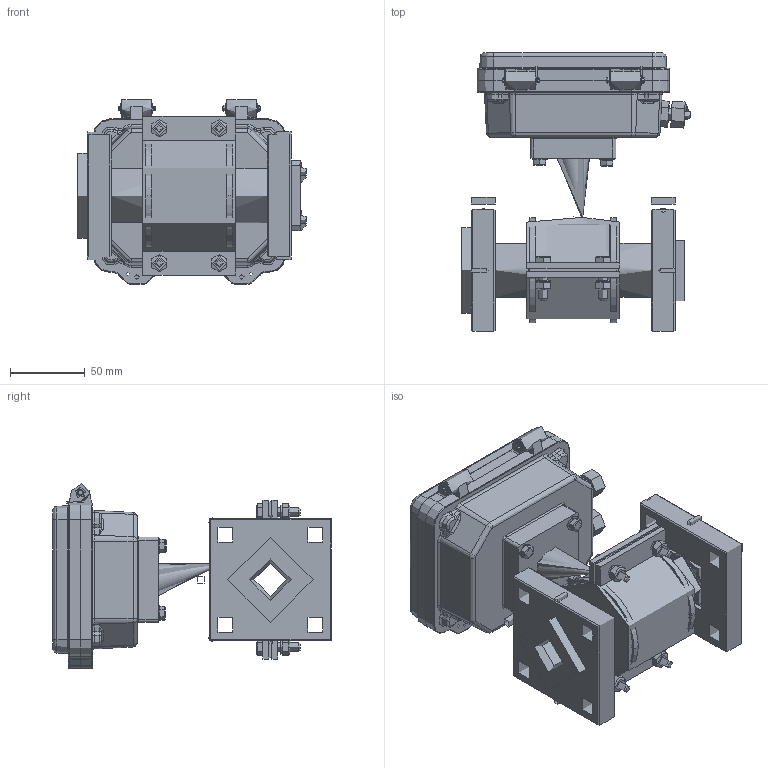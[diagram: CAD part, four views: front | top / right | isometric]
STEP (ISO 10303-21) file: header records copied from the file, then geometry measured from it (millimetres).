
FILE_DESCRIPTION(('STEP AP214'), '1');
FILE_NAME('Âçëåò ÝÐ ÏÐÎÔÈ DN25 Ôëàíåö', '', ('UNSPECIFIED'), ('UNSPECIFIED'), 'ASCON STEP Converter 1.6', 'ASCON Math Kernel', '');
FILE_SCHEMA(('AUTOMOTIVE_DESIGN { 1 0 10303 214 3 1 1}'));
Length unit declared in the file: millimetre
Products named in the file (1): 婽挭.407212.031-05
Bounding box: 152.67 x 185.98 x 123.45 mm (x, y, z)
Topology: 13 solids, 18 shells, 1271 faces, 3080 edges, 1866 vertices
Faces by surface type: plane 527, cylinder 388, cone 177, torus 141, bspline 38
Full cylindrical faces by diameter (mm): 2 x2, 3 x4, 3.242 x14, 3.3 x2, 3.7 x4, 4 x10, 4.134 x2, 4.917 x4, 5 x1, 5.5 x1, 6 x8, 6.3 x2, 7 x12, 7.5 x2, 8 x2, 10 x4, 12 x8, 12.5 x2, 14 x8, 16.5 x2, 18 x1, 19 x1, 20 x1, 21 x1, 22 x1, 25 x1, 30 x1, 35 x2, 36 x1, 36.4 x2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
Entity records: 66267 total; most frequent: CARTESIAN_POINT 22152, DIRECTION 6205, ORIENTED_EDGE 5530, EDGE_CURVE 2765, AXIS2_PLACEMENT_3D 2458, VERTEX_POINT 1836, EDGE_LOOP 1693, FACE_BOUND 1294
